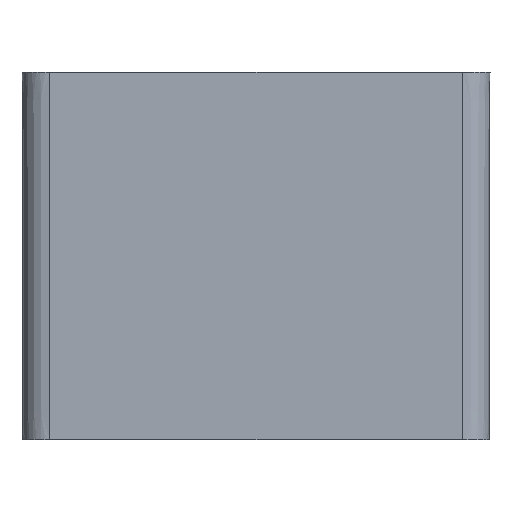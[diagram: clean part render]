
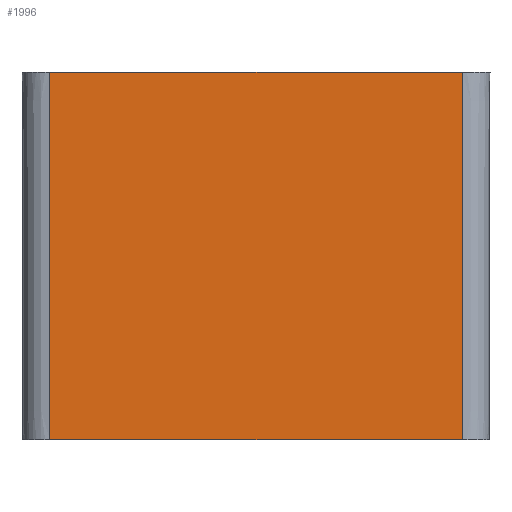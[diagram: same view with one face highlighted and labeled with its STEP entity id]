
A CAD part, front view. The second image highlights one B-rep face of the part: STEP entity #1996.
In plain terms, the highlighted planar face has unit normal (0, -1, -0.003).
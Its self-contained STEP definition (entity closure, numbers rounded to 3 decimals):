
#36 = CARTESIAN_POINT ( 'NONE',  ( -13.798, -10.991, -552.956 ) ) ;
#66 = DIRECTION ( 'NONE',  ( -1., 0., 0. ) ) ;
#219 = LINE ( 'NONE', #1402, #1825 ) ;
#220 = CARTESIAN_POINT ( 'NONE',  ( -2.648, -12.491, 20. ) ) ;
#366 = DIRECTION ( 'NONE',  ( 0., 0.003, -1. ) ) ;
#415 = DIRECTION ( 'NONE',  ( 0., -0.003, 1. ) ) ;
#417 = CARTESIAN_POINT ( 'NONE',  ( 8.502, -12.465, 10.075 ) ) ;
#481 = DIRECTION ( 'NONE',  ( 0., -1., -0.003 ) ) ;
#497 = EDGE_CURVE ( 'NONE', #2032, #1405, #1463, .T. ) ;
#528 = PLANE ( 'NONE',  #1876 ) ;
#581 = EDGE_CURVE ( 'NONE', #1564, #2032, #1527, .T. ) ;
#842 = FACE_OUTER_BOUND ( 'NONE', #1049, .T. ) ;
#904 = ORIENTED_EDGE ( 'NONE', *, *, #1493, .F. ) ;
#984 = CARTESIAN_POINT ( 'NONE',  ( -2.648, -12.465, 10.075 ) ) ;
#1045 = VECTOR ( 'NONE', #1888, 1000. ) ;
#1049 = EDGE_LOOP ( 'NONE', ( #1715, #904, #1737, #1989 ) ) ;
#1179 = VECTOR ( 'NONE', #415, 1000. ) ;
#1188 = CARTESIAN_POINT ( 'NONE',  ( -13.798, -12.439, 0.15 ) ) ;
#1190 = CARTESIAN_POINT ( 'NONE',  ( 8.502, -12.491, 20. ) ) ;
#1221 = LINE ( 'NONE', #417, #1045 ) ;
#1232 = EDGE_CURVE ( 'NONE', #1727, #1405, #1221, .T. ) ;
#1397 = VECTOR ( 'NONE', #2049, 1000. ) ;
#1402 = CARTESIAN_POINT ( 'NONE',  ( -2.648, -12.439, 0.15 ) ) ;
#1405 = VERTEX_POINT ( 'NONE', #1190 ) ;
#1463 = LINE ( 'NONE', #220, #1397 ) ;
#1493 = EDGE_CURVE ( 'NONE', #1727, #1564, #219, .T. ) ;
#1527 = LINE ( 'NONE', #36, #1179 ) ;
#1533 = CARTESIAN_POINT ( 'NONE',  ( -13.798, -12.491, 20. ) ) ;
#1564 = VERTEX_POINT ( 'NONE', #1188 ) ;
#1715 = ORIENTED_EDGE ( 'NONE', *, *, #581, .F. ) ;
#1719 = CARTESIAN_POINT ( 'NONE',  ( 8.502, -12.439, 0.15 ) ) ;
#1727 = VERTEX_POINT ( 'NONE', #1719 ) ;
#1737 = ORIENTED_EDGE ( 'NONE', *, *, #1232, .T. ) ;
#1825 = VECTOR ( 'NONE', #66, 1000. ) ;
#1876 = AXIS2_PLACEMENT_3D ( 'NONE', #984, #481, #366 ) ;
#1888 = DIRECTION ( 'NONE',  ( 0., -0.003, 1. ) ) ;
#1989 = ORIENTED_EDGE ( 'NONE', *, *, #497, .F. ) ;
#1996 = ADVANCED_FACE ( 'NONE', ( #842 ), #528, .T. ) ;
#2032 = VERTEX_POINT ( 'NONE', #1533 ) ;
#2049 = DIRECTION ( 'NONE',  ( 1., 0., 0. ) ) ;
